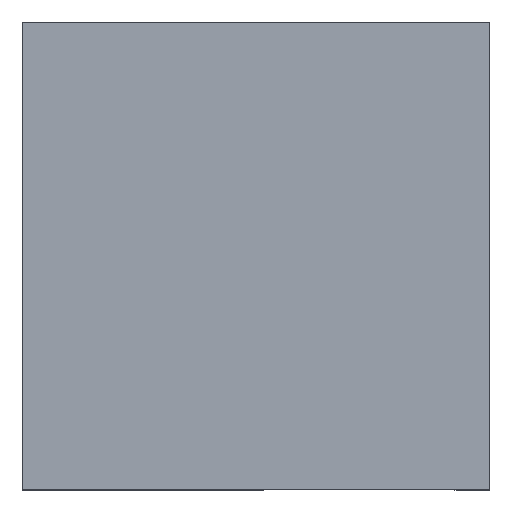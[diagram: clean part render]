
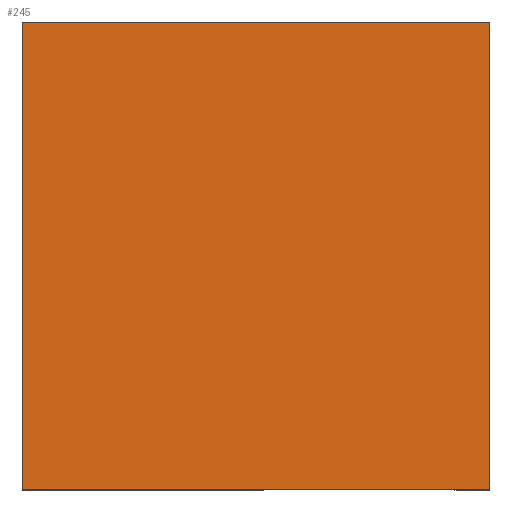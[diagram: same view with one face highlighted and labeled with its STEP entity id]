
A CAD part, top view. The second image highlights one B-rep face of the part: STEP entity #245.
In plain terms, the highlighted planar face has unit normal (0, 0, 1).
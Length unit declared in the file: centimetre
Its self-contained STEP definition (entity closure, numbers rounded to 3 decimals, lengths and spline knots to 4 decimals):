
#12 = DIRECTION ( 'NONE',  ( 0., 0., 1. ) ) ;
#26 = EDGE_CURVE ( 'NONE', #437, #66, #345, .T. ) ;
#27 = VECTOR ( 'NONE', #135, 100. ) ;
#55 = EDGE_CURVE ( 'NONE', #66, #330, #451, .T. ) ;
#66 = VERTEX_POINT ( 'NONE', #378 ) ;
#90 = ORIENTED_EDGE ( 'NONE', *, *, #26, .T. ) ;
#96 = DIRECTION ( 'NONE',  ( 0., -1., 0. ) ) ;
#135 = DIRECTION ( 'NONE',  ( -1., 0., 0. ) ) ;
#165 = DIRECTION ( 'NONE',  ( 1., 0., 0. ) ) ;
#178 = CARTESIAN_POINT ( 'NONE',  ( 1000., 0., 1000. ) ) ;
#189 = AXIS2_PLACEMENT_3D ( 'NONE', #353, #12, #165 ) ;
#193 = EDGE_LOOP ( 'NONE', ( #90, #265, #472, #394 ) ) ;
#220 = CARTESIAN_POINT ( 'NONE',  ( 0., 1000., 1000. ) ) ;
#223 = DIRECTION ( 'NONE',  ( 1., 0., 0. ) ) ;
#226 = CARTESIAN_POINT ( 'NONE',  ( 0., 0., 1000. ) ) ;
#233 = VECTOR ( 'NONE', #96, 100. ) ;
#243 = PLANE ( 'NONE',  #189 ) ;
#245 = ADVANCED_FACE ( 'NONE', ( #429 ), #243, .T. ) ;
#265 = ORIENTED_EDGE ( 'NONE', *, *, #55, .T. ) ;
#268 = EDGE_CURVE ( 'NONE', #358, #437, #403, .T. ) ;
#322 = CARTESIAN_POINT ( 'NONE',  ( 1000., 1000., 1000. ) ) ;
#330 = VERTEX_POINT ( 'NONE', #178 ) ;
#334 = CARTESIAN_POINT ( 'NONE',  ( 0., 1000., 1000. ) ) ;
#344 = EDGE_CURVE ( 'NONE', #330, #358, #479, .T. ) ;
#345 = LINE ( 'NONE', #334, #233 ) ;
#352 = DIRECTION ( 'NONE',  ( 0., 1., 0. ) ) ;
#353 = CARTESIAN_POINT ( 'NONE',  ( 0., 0., 1000. ) ) ;
#358 = VERTEX_POINT ( 'NONE', #322 ) ;
#378 = CARTESIAN_POINT ( 'NONE',  ( 0., 0., 1000. ) ) ;
#392 = CARTESIAN_POINT ( 'NONE',  ( 1000., 1000., 1000. ) ) ;
#394 = ORIENTED_EDGE ( 'NONE', *, *, #268, .T. ) ;
#401 = CARTESIAN_POINT ( 'NONE',  ( 0., 1000., 1000. ) ) ;
#403 = LINE ( 'NONE', #220, #27 ) ;
#404 = VECTOR ( 'NONE', #223, 100. ) ;
#426 = VECTOR ( 'NONE', #352, 100. ) ;
#429 = FACE_OUTER_BOUND ( 'NONE', #193, .T. ) ;
#437 = VERTEX_POINT ( 'NONE', #401 ) ;
#451 = LINE ( 'NONE', #226, #404 ) ;
#472 = ORIENTED_EDGE ( 'NONE', *, *, #344, .T. ) ;
#479 = LINE ( 'NONE', #392, #426 ) ;
